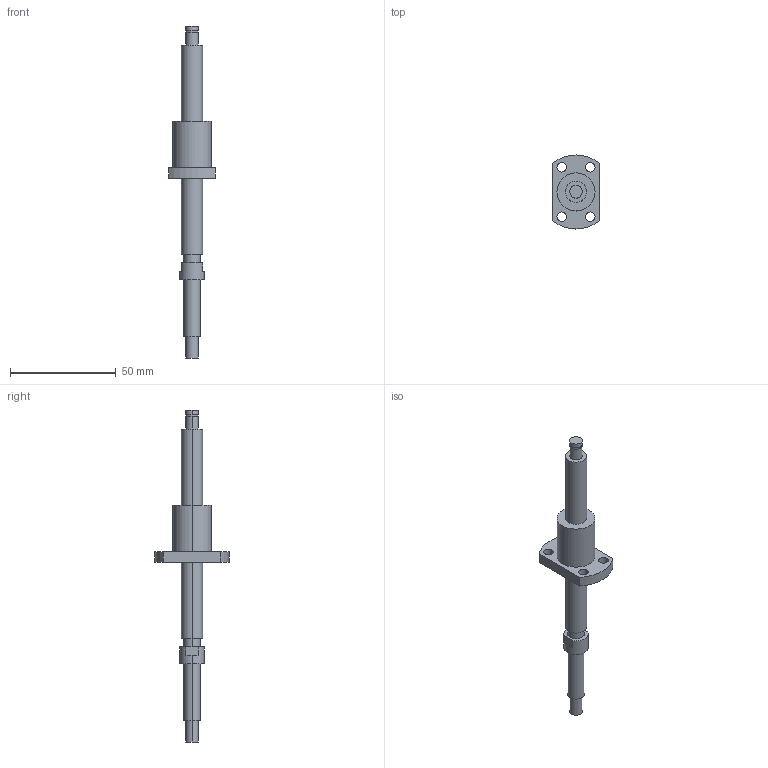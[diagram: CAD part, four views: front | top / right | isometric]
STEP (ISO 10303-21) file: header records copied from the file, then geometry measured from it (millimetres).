
FILE_DESCRIPTION((''),'2;1');
FILE_NAME('R10-2T3-FSI-100-158','2008-03-28T',('mahdi'),(''),'PRO/ENGINEER BY PARAMETRIC TECHNOLOGY CORPORATION, 2005070','PRO/ENGINEER BY PARAMETRIC TECHNOLOGY CORPORATION, 2005070','');
FILE_SCHEMA(('CONFIG_CONTROL_DESIGN'));
Length unit declared in the file: millimetre
Products named in the file (1): R10-2T3-FSI-100-158
Bounding box: 22 x 35 x 157 mm (x, y, z)
Volume: 17415.1 mm3; surface area: 7139.3 mm2
Topology: 1 solids, 1 shells, 48 faces, 108 edges, 72 vertices
Faces by surface type: cylinder 30, plane 18
Entity records: 1430 total; most frequent: DIRECTION 268, CARTESIAN_POINT 228, ORIENTED_EDGE 216, AXIS2_PLACEMENT_3D 112, EDGE_CURVE 108, VERTEX_POINT 72, EDGE_LOOP 66, CIRCLE 64
